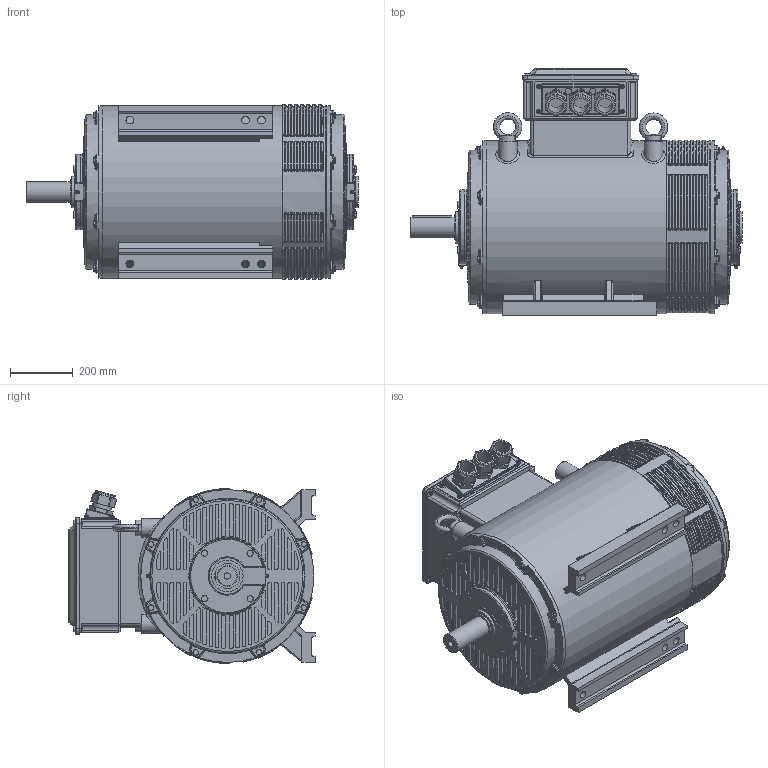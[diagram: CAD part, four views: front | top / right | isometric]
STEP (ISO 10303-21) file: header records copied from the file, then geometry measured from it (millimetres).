
FILE_DESCRIPTION((''),'2;1');
FILE_NAME('U:\Inventor 2012\121 - OMEC MOTORS\1509 - OMD IP23\1509 - Gereed\01-IP23-Cast Iron-IE1_IE2-280 B3-2.stp','2015-11-30T15:18:30',('Freek'),(''),'Autodesk Inventor 2012','Autodesk Inventor 2012','');
FILE_SCHEMA(('AUTOMOTIVE_DESIGN { 1 0 10303 214 1 1 1 1 }'));
Length unit declared in the file: millimetre
Products named in the file (1): 1509-028
Bounding box: 1055.9 x 785 x 557.33 mm (x, y, z)
Volume: 228283756.8 mm3; surface area: 4545035.4 mm2
Topology: 3 solids, 28 shells, 3814 faces, 9573 edges, 6049 vertices
Faces by surface type: plane 1381, cylinder 1329, cone 414, bspline 315, torus 219, sphere 156
Full cylindrical faces by diameter (mm): 8 x4, 9 x4, 9.188 x20, 10 x28, 13 x4, 15 x2, 15.4 x20, 17.2 x8, 20 x3, 24 x6, 48 x3, 60 x4, 63 x3, 65 x1, 66 x3, 80 x1, 84.6 x1, 84.8 x1, 99.8 x2, 100 x2, 490 x2, 544 x1, 550 x4
Entity records: 130732 total; most frequent: CARTESIAN_POINT 39914, ORIENTED_EDGE 18560, DIRECTION 17612, EDGE_CURVE 9280, AXIS2_PLACEMENT_3D 6982, VERTEX_POINT 5983, EDGE_LOOP 4355, STYLED_ITEM 3817
